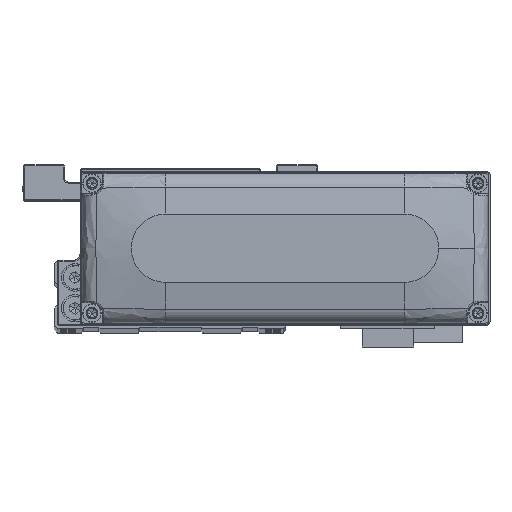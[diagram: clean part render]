
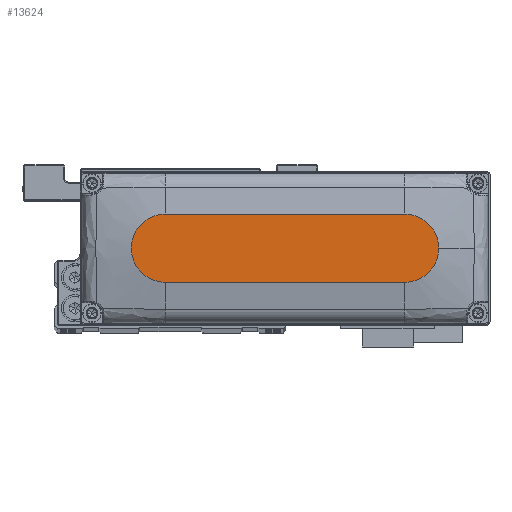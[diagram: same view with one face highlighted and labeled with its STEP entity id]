
A CAD part, top view. The second image highlights one B-rep face of the part: STEP entity #13624.
In plain terms, the highlighted planar face has unit normal (0, 0, 1).
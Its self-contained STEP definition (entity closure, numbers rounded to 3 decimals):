
#557 = DIRECTION ( 'NONE',  ( 0., 0., 1. ) ) ;
#644 = CARTESIAN_POINT ( 'NONE',  ( 35., -10., 28. ) ) ;
#676 = DIRECTION ( 'NONE',  ( 1., 0., 0. ) ) ;
#1985 = ORIENTED_EDGE ( 'NONE', *, *, #15370, .T. ) ;
#3105 = AXIS2_PLACEMENT_3D ( 'NONE', #28770, #557, #13127 ) ;
#3210 = EDGE_CURVE ( 'NONE', #4634, #35308, #7410, .T. ) ;
#3348 = VERTEX_POINT ( 'NONE', #39402 ) ;
#3466 = AXIS2_PLACEMENT_3D ( 'NONE', #37157, #8947, #21506 ) ;
#4291 = VERTEX_POINT ( 'NONE', #7979 ) ;
#4634 = VERTEX_POINT ( 'NONE', #32789 ) ;
#4875 = ORIENTED_EDGE ( 'NONE', *, *, #23945, .T. ) ;
#5076 = CARTESIAN_POINT ( 'NONE',  ( -35., -10., 28. ) ) ;
#5647 = DIRECTION ( 'NONE',  ( 1., 0., 0. ) ) ;
#5693 = ORIENTED_EDGE ( 'NONE', *, *, #23766, .T. ) ;
#7410 = CIRCLE ( 'NONE', #30429, 10. ) ;
#7511 = CARTESIAN_POINT ( 'NONE',  ( 35., 10., 28. ) ) ;
#7979 = CARTESIAN_POINT ( 'NONE',  ( -35., -10., 28. ) ) ;
#8361 = LINE ( 'NONE', #20925, #25486 ) ;
#8947 = DIRECTION ( 'NONE',  ( 0., 0., 1. ) ) ;
#12027 = FACE_OUTER_BOUND ( 'NONE', #21146, .T. ) ;
#12415 = CIRCLE ( 'NONE', #35421, 10. ) ;
#13127 = DIRECTION ( 'NONE',  ( 1., 0., 0. ) ) ;
#13624 = ADVANCED_FACE ( 'NONE', ( #12027 ), #24593, .T. ) ;
#14414 = ORIENTED_EDGE ( 'NONE', *, *, #3210, .T. ) ;
#15370 = EDGE_CURVE ( 'NONE', #3348, #4291, #12415, .T. ) ;
#16319 = CARTESIAN_POINT ( 'NONE',  ( 35., 0., 28. ) ) ;
#17626 = ORIENTED_EDGE ( 'NONE', *, *, #34961, .T. ) ;
#17633 = DIRECTION ( 'NONE',  ( 1., 0., 0. ) ) ;
#20098 = VECTOR ( 'NONE', #17633, 1000. ) ;
#20330 = VERTEX_POINT ( 'NONE', #644 ) ;
#20874 = CIRCLE ( 'NONE', #3105, 10. ) ;
#20925 = CARTESIAN_POINT ( 'NONE',  ( -35., 10., 28. ) ) ;
#21146 = EDGE_LOOP ( 'NONE', ( #4875, #1985, #17626, #5693, #14414 ) ) ;
#21293 = CARTESIAN_POINT ( 'NONE',  ( -35., 0., 28. ) ) ;
#21506 = DIRECTION ( 'NONE',  ( 1., 0., 0. ) ) ;
#23766 = EDGE_CURVE ( 'NONE', #20330, #4634, #20874, .T. ) ;
#23945 = EDGE_CURVE ( 'NONE', #35308, #3348, #8361, .T. ) ;
#24593 = PLANE ( 'NONE',  #3466 ) ;
#25486 = VECTOR ( 'NONE', #33459, 1000. ) ;
#28770 = CARTESIAN_POINT ( 'NONE',  ( 35., 0., 28. ) ) ;
#28895 = DIRECTION ( 'NONE',  ( 0., 0., 1. ) ) ;
#30429 = AXIS2_PLACEMENT_3D ( 'NONE', #16319, #28895, #676 ) ;
#32789 = CARTESIAN_POINT ( 'NONE',  ( 45., 0., 28. ) ) ;
#33275 = LINE ( 'NONE', #5076, #20098 ) ;
#33459 = DIRECTION ( 'NONE',  ( -1., 0., 0. ) ) ;
#33830 = DIRECTION ( 'NONE',  ( 0., 0., 1. ) ) ;
#34961 = EDGE_CURVE ( 'NONE', #4291, #20330, #33275, .T. ) ;
#35308 = VERTEX_POINT ( 'NONE', #7511 ) ;
#35421 = AXIS2_PLACEMENT_3D ( 'NONE', #21293, #33830, #5647 ) ;
#37157 = CARTESIAN_POINT ( 'NONE',  ( 0., 0., 28. ) ) ;
#39402 = CARTESIAN_POINT ( 'NONE',  ( -35., 10., 28. ) ) ;
